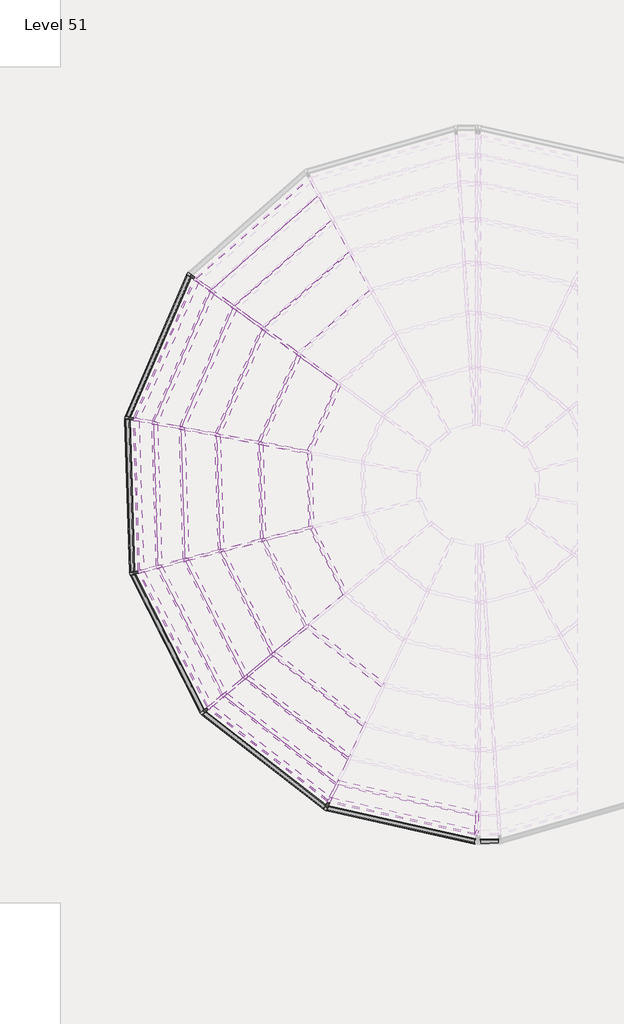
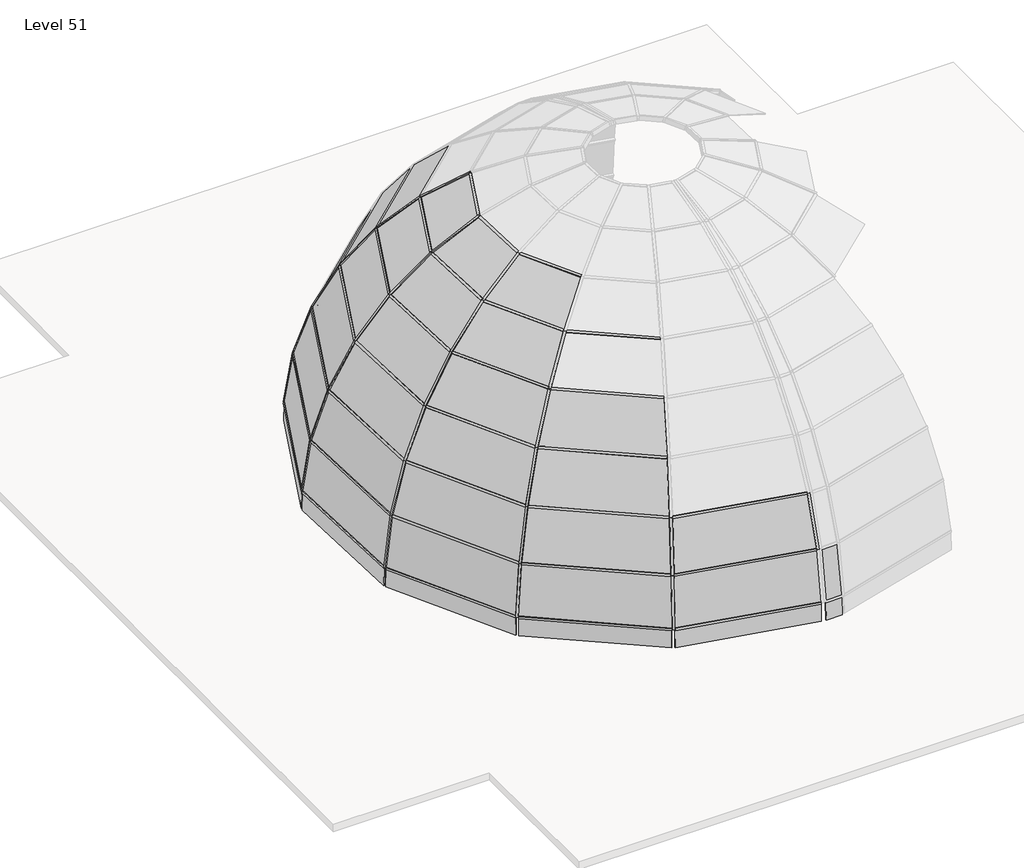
# One storey, part 1 of 5: 56 members, 35 plates.
"""IFC4 building model written with IfcOpenShell, lengths in millimetres."""

from ifc_helpers import new_model, si_unit, origin, place, context, project, spatial, transform, mapped, element, save
from components import member_1612663b, member_5eaec6db, member_d183bd50, member_19265363, member_bab2e2f0, member_1e4e3dac, member_4ad3c4be, member_f539bf5b, member_d9f9b3f1, member_bd7755a3, member_d21742c5, member_01029f2d, member_1ac3cc72, system_panel_glazed_08e752b3, system_panel_glazed_7ce28d7e, system_panel_glazed_bc7ae3a6, system_panel_glazed_73e2dce4, system_panel_glazed_e2cbaf5e, system_panel_glazed_cf9631f2, system_panel_glazed_9d9da8a2, system_panel_glazed_7f2b973a, system_panel_glazed_65ecf698, system_panel_glazed_75a13c62, system_panel_glazed_a149731e, system_panel_glazed_d1d661fa

model = new_model("IFC4")

# Units and contexts
model_context = context("Model", 3, world=origin())
ifc_project = project(units=[si_unit("LENGTHUNIT", "METRE", prefix="MILLI")], contexts=[model_context])

# Site, building, storey
site = spatial("IfcSite", under=ifc_project)
building = spatial("IfcBuilding", under=site)
storey = spatial("IfcBuildingStorey", under=building, Name="Level 51", Elevation=152400.0)

# Members
placement = place(None, origin())
member_shape = member_1612663b(model_context)
element("IfcMember", 1, ObjectType="Rectangular Mullion : 2.5\" x 5\" rectangular", at=placement, inside=storey, context=model_context, shape_type="MappedRepresentation", body=[
    mapped(member_shape, transform((-847.7740807, -9797.4695051, 159578.4455769), x_axis=(-0.6371882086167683, 0.7707082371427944, 0.0), y_axis=(-0.526166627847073, -0.4350117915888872, 0.730693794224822), z_axis=(0.5631517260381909, 0.4655894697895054, 0.6827053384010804))),
])
element("IfcMember", 2, ObjectType="Rectangular Mullion : 2.5\" x 5\" rectangular", at=placement, inside=storey, context=model_context, shape_type="MappedRepresentation", body=[
    mapped(member_shape, transform((-1706.0173112, -10507.027857, 158538.0026411), x_axis=(-0.6371882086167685, 0.7707082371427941, 0.0), y_axis=(-0.6123909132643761, -0.5062982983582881, 0.6071568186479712), z_axis=(0.4679407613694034, 0.386873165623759, 0.7945820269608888))),
])
element("IfcMember", 3, ObjectType="Rectangular Mullion : 2.5\" x 5\" rectangular", at=placement, inside=storey, context=model_context, shape_type="MappedRepresentation", body=[
    mapped(member_shape, transform((-2419.1590315, -11096.6225614, 157327.0596321), x_axis=(-0.6371882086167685, 0.7707082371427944, 0.0), y_axis=(-0.6816043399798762, -0.5635209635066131, 0.4667543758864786), z_axis=(0.35973144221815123, 0.29741038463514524, 0.8843869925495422))),
])
element("IfcMember", 4, ObjectType="Rectangular Mullion : 2.5\" x 5\" rectangular", at=placement, inside=storey, context=model_context, shape_type="MappedRepresentation", body=[
    mapped(member_shape, transform((-2967.3897495, -11549.8759876, 155979.2538554), x_axis=(-0.6371882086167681, 0.7707082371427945, 0.0), y_axis=(-0.7318843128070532, -0.6050902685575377, 0.3133865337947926), z_axis=(0.24152958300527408, 0.19968620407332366, 0.9496256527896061))),
])
element("IfcMember", 5, ObjectType="Rectangular Mullion : 2.5\" x 5\" rectangular", at=placement, inside=storey, context=model_context, shape_type="MappedRepresentation", body=[
    mapped(member_shape, transform((-738.0824991, -7278.9379319, 160419.4872466), x_axis=(-0.24824532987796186, 0.9686971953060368, 0.0), y_axis=(-0.5345897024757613, -0.13699781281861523, 0.83393371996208), z_axis=(0.8078292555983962, 0.20702015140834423, 0.5518646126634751))),
])
element("IfcMember", 6, ObjectType="Rectangular Mullion : 2.5\" x 5\" rectangular", at=placement, inside=storey, context=model_context, shape_type="MappedRepresentation", body=[
    mapped(member_shape, transform((-1969.2142846, -7594.4366426, 159578.4455769), x_axis=(-0.24824532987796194, 0.9686971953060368, 0.0), y_axis=(-0.6613347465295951, -0.1694784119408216, 0.7306937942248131), z_axis=(0.707821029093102, 0.18139132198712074, 0.6827053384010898))),
])
element("IfcMember", 7, ObjectType="Rectangular Mullion : 2.5\" x 5\" rectangular", at=placement, inside=storey, context=model_context, shape_type="MappedRepresentation", body=[
    mapped(member_shape, transform((-3047.933533, -7870.8770173, 158538.0026411), x_axis=(-0.2482453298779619, 0.9686971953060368, 0.0), y_axis=(-0.7697093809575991, -0.19725127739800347, 0.6071568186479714), z_axis=(0.5881511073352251, 0.1507238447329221, 0.7945820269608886))),
])
element("IfcMember", 8, ObjectType="Rectangular Mullion : 2.5\" x 5\" rectangular", at=placement, inside=storey, context=model_context, shape_type="MappedRepresentation", body=[
    mapped(member_shape, transform((-3944.2758205, -8100.5801567, 157327.0596321), x_axis=(-0.24824532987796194, 0.9686971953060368, 0.0), y_axis=(-0.8567031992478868, -0.21954494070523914, 0.46675437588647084), z_axis=(0.452143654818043, 0.11586959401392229, 0.8843869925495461))),
])
element("IfcMember", 9, ObjectType="Rectangular Mullion : 2.5\" x 5\" rectangular", at=placement, inside=storey, context=model_context, shape_type="MappedRepresentation", body=[
    mapped(member_shape, transform((-4633.3427505, -8277.165418, 155979.2538554), x_axis=(-0.24824532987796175, 0.9686971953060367, 0.0), y_axis=(-0.919899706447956, -0.23574013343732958, 0.3133865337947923), z_axis=(0.303576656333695, 0.07779674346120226, 0.9496256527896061))),
])
element("IfcMember", 10, ObjectType="Rectangular Mullion : 2.5\" x 5\" rectangular", at=placement, inside=storey, context=model_context, shape_type="MappedRepresentation", body=[
    mapped(member_shape, transform((-797.2823201, -5362.4848066, 160419.4872466), x_axis=(0.18798237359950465, 0.9821724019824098, 0.0), y_axis=(-0.5420261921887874, 0.10374081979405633, 0.8339337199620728), z_axis=(0.8190666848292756, -0.15676484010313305, 0.5518646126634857))),
])
element("IfcMember", 11, ObjectType="Rectangular Mullion : 2.5\" x 5\" rectangular", at=placement, inside=storey, context=model_context, shape_type="MappedRepresentation", body=[
    mapped(member_shape, transform((-2045.5399477, -5123.5751902, 159578.4455769), x_axis=(0.18798237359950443, 0.9821724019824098, 0.0), y_axis=(-0.6705343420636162, 0.1283365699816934, 0.730693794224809), z_axis=(0.7176672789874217, -0.1373575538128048, 0.6827053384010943))),
])
element("IfcMember", 12, ObjectType="Rectangular Mullion : 2.5\" x 5\" rectangular", at=placement, inside=storey, context=model_context, shape_type="MappedRepresentation", body=[
    mapped(member_shape, transform((-3139.2648809, -4914.2422782, 158538.0026411), x_axis=(0.18798237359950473, 0.9821724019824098, 0.0), y_axis=(-0.780416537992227, 0.1493674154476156, 0.6071568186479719), z_axis=(0.5963326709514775, -0.11413477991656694, 0.7945820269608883))),
])
element("IfcMember", 13, ObjectType="Rectangular Mullion : 2.5\" x 5\" rectangular", at=placement, inside=storey, context=model_context, shape_type="MappedRepresentation", body=[
    mapped(member_shape, transform((-4048.0758714, -4740.3008736, 157327.0596321), x_axis=(0.18798237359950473, 0.9821724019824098, 0.0), y_axis=(-0.8686204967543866, 0.16624916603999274, 0.46675437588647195), z_axis=(0.45843326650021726, -0.0877415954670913, 0.8843869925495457))),
])
element("IfcMember", 14, ObjectType="Rectangular Mullion : 2.5\" x 5\" rectangular", at=placement, inside=storey, context=model_context, shape_type="MappedRepresentation", body=[
    mapped(member_shape, transform((-4746.7281696, -4606.5826821, 155979.2538554), x_axis=(0.18798237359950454, 0.9821724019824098, 0.0), y_axis=(-0.9326961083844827, 0.1785128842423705, 0.3133865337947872), z_axis=(0.30779960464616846, -0.05891114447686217, 0.9496256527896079))),
])
element("IfcMember", 15, ObjectType="Rectangular Mullion : 2.5\" x 5\" rectangular", at=placement, inside=storey, context=model_context, shape_type="MappedRepresentation", body=[
    mapped(member_shape, transform((-66.1935478, -13801.3409492, 155979.2538554), x_axis=(-0.9047619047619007, 0.42591770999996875, 0.0), y_axis=(-0.40446238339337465, -0.859185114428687, 0.3133865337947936), z_axis=(0.13347687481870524, 0.28354019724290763, 0.9496256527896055))),
])
element("IfcMember", 16, ObjectType="Rectangular Mullion : 2.5\" x 5\" rectangular", at=placement, inside=storey, context=model_context, shape_type="MappedRepresentation", body=[
    mapped(member_shape, transform((-34.5927364, -3603.3367743, 160419.4872466), x_axis=(0.5884039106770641, 0.8085671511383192, 0.0), y_axis=(-0.44621959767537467, 0.3247192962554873, 0.8339337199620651), z_axis=(0.6742914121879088, -0.49068986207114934, 0.5518646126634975))),
])
element("IfcMember", 17, ObjectType="Rectangular Mullion : 2.5\" x 5\" rectangular", at=placement, inside=storey, context=model_context, shape_type="MappedRepresentation", body=[
    mapped(member_shape, transform((-1062.2128486, -2855.5254245, 159578.4455769), x_axis=(0.5884039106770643, 0.8085671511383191, 0.0), y_axis=(-0.5520131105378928, 0.4017064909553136, 0.73069379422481), z_axis=(0.5908149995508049, -0.4299430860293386, 0.6827053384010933))),
])
element("IfcMember", 18, ObjectType="Rectangular Mullion : 2.5\" x 5\" rectangular", at=placement, inside=storey, context=model_context, shape_type="MappedRepresentation", body=[
    mapped(member_shape, transform((-1962.6149079, -2200.2921614, 158538.0026411), x_axis=(0.5884039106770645, 0.808567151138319, 0.0), y_axis=(-0.6424729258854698, 0.46753517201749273, 0.607156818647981), z_axis=(0.4909270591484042, -0.3572534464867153, 0.7945820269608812))),
])
element("IfcMember", 19, ObjectType="Rectangular Mullion : 2.5\" x 5\" rectangular", at=placement, inside=storey, context=model_context, shape_type="MappedRepresentation", body=[
    mapped(member_shape, transform((-2710.787746, -1655.837909, 157327.0596321), x_axis=(0.5884039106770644, 0.808567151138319, 0.0), y_axis=(-0.7150862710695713, 0.5203767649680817, 0.4667543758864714), z_axis=(0.3774022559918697, -0.2746401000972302, 0.8843869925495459))),
])
element("IfcMember", 20, ObjectType="Rectangular Mullion : 2.5\" x 5\" rectangular", at=placement, inside=storey, context=model_context, shape_type="MappedRepresentation", body=[
    mapped(member_shape, transform((-3285.9487841, -1237.2863964, 155979.2538554), x_axis=(0.5884039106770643, 0.808567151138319, 0.0), y_axis=(-0.7678361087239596, 0.5587634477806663, 0.31338653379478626), z_axis=(0.2533940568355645, -0.18439786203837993, 0.9496256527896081))),
])
member_2_shape = member_5eaec6db(model_context)
element("IfcMember", 21, ObjectType="Rectangular Mullion : 2.5\" x 5\" rectangular", at=placement, inside=storey, context=model_context, shape_type="MappedRepresentation", body=[
    mapped(member_2_shape, transform((-3335.480834, -11854.1977626, 154532.0243606), x_axis=(-0.6371882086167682, 0.7707082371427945, 0.0), y_axis=(-0.7618341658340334, -0.6298515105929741, 0.15131351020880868), z_axis=(0.11661856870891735, 0.09641518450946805, 0.9884858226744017))),
])
element("IfcMember", 22, ObjectType="Rectangular Mullion : 2.5\" x 5\" rectangular", at=placement, inside=storey, context=model_context, shape_type="MappedRepresentation", body=[
    mapped(member_2_shape, transform((-5095.9935747, -8395.727655, 154532.0243606), x_axis=(-0.24824532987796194, 0.9686971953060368, 0.0), y_axis=(-0.9575434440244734, -0.2453869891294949, 0.15131351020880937), z_axis=(0.14657697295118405, 0.037562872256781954, 0.9884858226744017))),
])
element("IfcMember", 23, ObjectType="Rectangular Mullion : 2.5\" x 5\" rectangular", at=placement, inside=storey, context=model_context, shape_type="MappedRepresentation", body=[
    mapped(member_2_shape, transform((-269.612305, -14233.4562098, 154532.0243606), x_axis=(-0.9047619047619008, 0.42591770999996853, 0.0), y_axis=(-0.4210136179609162, -0.8943443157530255, 0.1513135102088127), z_axis=(0.0644471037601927, 0.13690269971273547, 0.9884858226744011))),
])
element("IfcMember", 24, ObjectType="Rectangular Mullion : 2.5\" x 5\" rectangular", at=placement, inside=storey, context=model_context, shape_type="MappedRepresentation", body=[
    mapped(member_2_shape, transform((-5215.8147671, -4516.802098, 154532.0243606), x_axis=(0.18798237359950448, 0.9821724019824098, 0.0), y_axis=(-0.9708634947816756, 0.18581791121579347, 0.15131351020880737), z_axis=(0.14861595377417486, -0.02844427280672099, 0.9884858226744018))),
])
element("IfcMember", 25, ObjectType="Rectangular Mullion : 2.5\" x 5\" rectangular", at=placement, inside=storey, context=model_context, shape_type="MappedRepresentation", body=[
    mapped(member_2_shape, transform((-3672.1213268, -956.2640547, 154532.0243606), x_axis=(0.5884039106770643, 0.8085671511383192, 0.0), y_axis=(-0.7992571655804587, 0.5816289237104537, 0.15131351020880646), z_axis=(0.1223471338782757, -0.08903346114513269, 0.988485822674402))),
])
member_3_shape = member_d183bd50(model_context)
element("IfcMember", 26, ObjectType="Rectangular Mullion : 2.5\" x 5\" rectangular", at=placement, inside=storey, context=model_context, shape_type="MappedRepresentation", body=[
    mapped(member_3_shape, transform((-5304.9735037, -8481.2684402, 153025.5719668), x_axis=(-0.062466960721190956, -0.03179841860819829, -0.9975403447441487), y_axis=(-0.888988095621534, -0.452533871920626, 0.07009465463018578), z_axis=(-0.4536496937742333, 0.8911800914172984, 0.0))),
])
element("IfcMember", 27, ObjectType="Rectangular Mullion : 2.5\" x 5\" rectangular", at=placement, inside=storey, context=model_context, shape_type="MappedRepresentation", body=[
    mapped(member_3_shape, transform((-5441.325181, -4505.1878889, 153025.5719668), x_axis=(-0.07006123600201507, -0.0021642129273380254, -0.9975403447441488), y_axis=(-0.9970647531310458, -0.030799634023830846, 0.07009465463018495), z_axis=(-0.030875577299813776, 0.999523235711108, 0.0))),
])
element("IfcMember", 28, ObjectType="Rectangular Mullion : 2.5\" x 5\" rectangular", at=placement, inside=storey, context=model_context, shape_type="MappedRepresentation", body=[
    mapped(member_3_shape, transform((-3871.2078611, -849.7070817, 153025.5719668), x_axis=(-0.06431051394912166, 0.02788222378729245, -0.9975403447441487), y_axis=(-0.915224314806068, 0.39680120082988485, 0.07009465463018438), z_axis=(0.39777960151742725, 0.9174810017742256, 0.0))),
])
element("IfcMember", 29, ObjectType="Rectangular Mullion : 2.5\" x 5\" rectangular", at=placement, inside=storey, context=model_context, shape_type="MappedRepresentation", body=[
    mapped(member_3_shape, transform((-3488.1245773, -12020.6000592, 153025.5719668), x_axis=(-0.04297421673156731, -0.05537578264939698, -0.9975403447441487), y_axis=(-0.6115803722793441, -0.7880711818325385, 0.07009465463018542), z_axis=(-0.7900143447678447, 0.6130883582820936, 0.0))),
])
member_4_shape = member_19265363(model_context)
element("IfcMember", 30, ObjectType="Rectangular Mullion : 2.5\" x 5\" rectangular", at=placement, inside=storey, context=model_context, shape_type="MappedRepresentation", body=[
    mapped(member_4_shape, transform((-238.6274777, -14240.3846278, 154532.0243606), x_axis=(-0.05206567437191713, -0.23284477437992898, -0.9711191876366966), y_axis=(-0.21191558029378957, -0.9477152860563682, 0.23859489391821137), z_axis=(-0.9759000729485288, 0.21821789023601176, 0.0))),
])
member_5_shape = member_bab2e2f0(model_context)
element("IfcMember", 31, ObjectType="Rectangular Mullion : 2.5\" x 5\" rectangular", at=placement, inside=storey, context=model_context, shape_type="MappedRepresentation", body=[
    mapped(member_5_shape, transform((-3310.3978785, -11873.663318, 154532.0243606), x_axis=(-0.146279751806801, -0.18849338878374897, -0.9711191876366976), y_axis=(-0.5953818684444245, -0.7671980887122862, 0.23859489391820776), z_axis=(-0.7900143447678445, 0.6130883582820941, 0.0))),
])
element("IfcMember", 32, ObjectType="Rectangular Mullion : 2.5\" x 5\" rectangular", at=placement, inside=storey, context=model_context, shape_type="MappedRepresentation", body=[
    mapped(member_5_shape, transform((-5081.590197, -8424.0226229, 154532.0243606), x_axis=(-0.21263101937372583, -0.10823850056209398, -0.9711191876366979), y_axis=(-0.8654420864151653, -0.4405479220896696, 0.23859489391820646), z_axis=(-0.45364969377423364, 0.8911800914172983, 0.0))),
])
element("IfcMember", 33, ObjectType="Rectangular Mullion : 2.5\" x 5\" rectangular", at=placement, inside=storey, context=model_context, shape_type="MappedRepresentation", body=[
    mapped(member_5_shape, transform((-5214.8344675, -4548.5369607, 154532.0243606), x_axis=(-0.2384811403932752, -0.007366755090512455, -0.9711191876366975), y_axis=(-0.9706561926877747, -0.029983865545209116, 0.23859489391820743), z_axis=(-0.03087557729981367, 0.999523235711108, 0.0))),
])
element("IfcMember", 34, ObjectType="Rectangular Mullion : 2.5\" x 5\" rectangular", at=placement, inside=storey, context=model_context, shape_type="MappedRepresentation", body=[
    mapped(member_5_shape, transform((-3684.7508291, -985.3940765, 154532.0243606), x_axis=(-0.21890628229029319, 0.0949081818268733, -0.9711191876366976), y_axis=(-0.890983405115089, 0.3862914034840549, 0.23859489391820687), z_axis=(0.3977796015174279, 0.9174810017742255, 0.0))),
])
member_6_shape = member_1e4e3dac(model_context)
element("IfcMember", 35, ObjectType="Rectangular Mullion : 2.5\" x 5\" rectangular", at=placement, inside=storey, context=model_context, shape_type="MappedRepresentation", body=[
    mapped(member_6_shape, transform((-336.8448638, -14449.0243421, 153025.5719668), x_axis=(-0.015295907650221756, -0.06840537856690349, -0.9975403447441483), y_axis=(-0.2176811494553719, -0.9734996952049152, 0.07009465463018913), z_axis=(-0.9759000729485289, 0.2182178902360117, 0.0))),
])
member_7_shape = member_4ad3c4be(model_context)
element("IfcMember", 36, ObjectType="Rectangular Mullion : 2.5\" x 5\" rectangular", at=placement, inside=storey, context=model_context, shape_type="MappedRepresentation", body=[
    mapped(member_7_shape, transform((-2723.4172484, -1684.9679308, 157327.0596321), x_axis=(-0.5029371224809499, 0.21805152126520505, -0.8363658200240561), y_axis=(-0.7673497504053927, 0.33268926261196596, 0.5481717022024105), z_axis=(0.39777960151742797, 0.9174810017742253, 0.0))),
])
element("IfcMember", 37, ObjectType="Rectangular Mullion : 2.5\" x 5\" rectangular", at=placement, inside=storey, context=model_context, shape_type="MappedRepresentation", body=[
    mapped(member_7_shape, transform((-4047.0955719, -4772.0357364, 157327.0596321), x_axis=(-0.547910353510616, -0.016925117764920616, -0.8363658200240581), y_axis=(-0.835967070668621, -0.025823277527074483, 0.5481717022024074), z_axis=(-0.030875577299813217, 0.999523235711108, 0.0))),
])
element("IfcMember", 38, ObjectType="Rectangular Mullion : 2.5\" x 5\" rectangular", at=placement, inside=storey, context=model_context, shape_type="MappedRepresentation", body=[
    mapped(member_7_shape, transform((-2394.0760761, -11116.0881168, 157327.0596321), x_axis=(-0.33607768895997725, -0.4330635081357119, -0.8363658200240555), y_axis=(-0.5127661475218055, -0.6607409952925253, 0.5481717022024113), z_axis=(-0.7900143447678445, 0.613088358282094, 0.0))),
])
element("IfcMember", 39, ObjectType="Rectangular Mullion : 2.5\" x 5\" rectangular", at=placement, inside=storey, context=model_context, shape_type="MappedRepresentation", body=[
    mapped(member_7_shape, transform((-3929.8724428, -8128.8751246, 157327.0596321), x_axis=(-0.4885197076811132, -0.2486779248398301, -0.8363658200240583), y_axis=(-0.7453525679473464, -0.37941709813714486, 0.5481717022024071), z_axis=(-0.4536496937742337, 0.8911800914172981, 0.0))),
])
member_8_shape = member_f539bf5b(model_context)
element("IfcMember", 40, ObjectType="Rectangular Mullion : 2.5\" x 5\" rectangular", at=placement, inside=storey, context=model_context, shape_type="MappedRepresentation", body=[
    mapped(member_8_shape, transform((-35.2087204, -13808.2693672, 155979.2538554), x_axis=(-0.08719349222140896, -0.38994115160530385, -0.9167023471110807), y_axis=(-0.20004085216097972, -0.8946098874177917, 0.39957077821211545), z_axis=(-0.9759000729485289, 0.2182178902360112, 0.0))),
])
member_9_shape = member_d9f9b3f1(model_context)
element("IfcMember", 41, ObjectType="Rectangular Mullion : 2.5\" x 5\" rectangular", at=placement, inside=storey, context=model_context, shape_type="MappedRepresentation", body=[
    mapped(member_9_shape, transform((-2942.306794, -11569.341543, 155979.2538554), x_axis=(-0.2449721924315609, -0.31566664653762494, -0.9167023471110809), y_axis=(-0.5620195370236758, -0.724208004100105, 0.3995707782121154), z_axis=(-0.790014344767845, 0.6130883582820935, 0.0))),
])
element("IfcMember", 42, ObjectType="Rectangular Mullion : 2.5\" x 5\" rectangular", at=placement, inside=storey, context=model_context, shape_type="MappedRepresentation", body=[
    mapped(member_9_shape, transform((-4618.9393727, -8305.4603859, 155979.2538554), x_axis=(-0.3560895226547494, -0.18126516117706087, -0.9167023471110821), y_axis=(-0.8169468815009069, -0.415861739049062, 0.39957077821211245), z_axis=(-0.45364969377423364, 0.8911800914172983, 0.0))),
])
element("IfcMember", 43, ObjectType="Rectangular Mullion : 2.5\" x 5\" rectangular", at=placement, inside=storey, context=model_context, shape_type="MappedRepresentation", body=[
    mapped(member_9_shape, transform((-4745.74787, -4638.3175449, 155979.2538554), x_axis=(-0.3993802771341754, -0.012336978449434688, -0.9167023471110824), y_axis=(-0.9162652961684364, -0.028303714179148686, 0.3995707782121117), z_axis=(-0.03087557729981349, 0.999523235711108, 0.0))),
])
element("IfcMember", 44, ObjectType="Rectangular Mullion : 2.5\" x 5\" rectangular", at=placement, inside=storey, context=model_context, shape_type="MappedRepresentation", body=[
    mapped(member_9_shape, transform((-3298.5782865, -1266.4164182, 155979.2538554), x_axis=(-0.36659859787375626, 0.1589411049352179, -0.9167023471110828), y_axis=(-0.8410569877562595, 0.3646454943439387, 0.39957077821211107), z_axis=(0.3977796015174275, 0.9174810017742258, 0.0))),
])
member_10_shape = member_bd7755a3(model_context)
element("IfcMember", 45, ObjectType="Rectangular Mullion : 2.5\" x 5\" rectangular", at=placement, inside=storey, context=model_context, shape_type="MappedRepresentation", body=[
    mapped(member_10_shape, transform((-1074.8423509, -2884.6554463, 159578.4455769), x_axis=(-0.7269350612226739, 0.3151672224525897, -0.6101106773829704), y_axis=(-0.559764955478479, 0.2426895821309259, 0.7923162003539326), z_axis=(0.39777960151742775, 0.9174810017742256, 0.0))),
])
element("IfcMember", 46, ObjectType="Rectangular Mullion : 2.5\" x 5\" rectangular", at=placement, inside=storey, context=model_context, shape_type="MappedRepresentation", body=[
    mapped(member_10_shape, transform((-2044.5596482, -5155.310053, 159578.4455769), x_axis=(-0.7919384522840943, -0.024463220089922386, -0.6101106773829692), y_axis=(-0.6098197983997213, -0.018837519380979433, 0.7923162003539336), z_axis=(-0.030875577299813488, 0.999523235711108, 0.0))),
])
element("IfcMember", 47, ObjectType="Rectangular Mullion : 2.5\" x 5\" rectangular", at=placement, inside=storey, context=model_context, shape_type="MappedRepresentation", body=[
    mapped(member_10_shape, transform((-1954.8109068, -7622.7316105, 159578.4455769), x_axis=(-0.7060964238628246, -0.35943400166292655, -0.6101106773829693), y_axis=(-0.5437184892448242, -0.27677652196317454, 0.7923162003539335), z_axis=(-0.4536496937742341, 0.8911800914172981, 0.0))),
])
element("IfcMember", 48, ObjectType="Rectangular Mullion : 2.5\" x 5\" rectangular", at=placement, inside=storey, context=model_context, shape_type="MappedRepresentation", body=[
    mapped(member_10_shape, transform((-822.6911253, -9816.9350604, 159578.4455769), x_axis=(-0.4857598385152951, -0.6259411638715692, -0.6101106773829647), y_axis=(-0.37405175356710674, -0.48199618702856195, 0.7923162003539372), z_axis=(-0.7900143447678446, 0.6130883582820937, 0.0))),
])
member_11_shape = member_d21742c5(model_context)
element("IfcMember", 49, ObjectType="Rectangular Mullion : 2.5\" x 5\" rectangular", at=placement, inside=storey, context=model_context, shape_type="MappedRepresentation", body=[
    mapped(member_11_shape, transform((-47.2222387, -3632.4667961, 160419.4872466), x_axis=(-0.8091100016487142, 0.3507946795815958, -0.47147014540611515), y_axis=(-0.43256490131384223, 0.1875412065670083, 0.8818820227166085), z_axis=(0.3977796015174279, 0.9174810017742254, 0.0))),
])
element("IfcMember", 50, ObjectType="Rectangular Mullion : 2.5\" x 5\" rectangular", at=placement, inside=storey, context=model_context, shape_type="MappedRepresentation", body=[
    mapped(member_11_shape, transform((-796.3020205, -5394.2196693, 160419.4872466), x_axis=(-0.8814615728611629, -0.02722861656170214, -0.47147014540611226), y_axis=(-0.471245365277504, -0.014556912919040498, 0.8818820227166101), z_axis=(-0.03087557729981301, 0.9995232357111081, 0.0))),
])
element("IfcMember", 51, ObjectType="Rectangular Mullion : 2.5\" x 5\" rectangular", at=placement, inside=storey, context=model_context, shape_type="MappedRepresentation", body=[
    mapped(member_11_shape, transform((-723.6791213, -7307.2328998, 160419.4872466), x_axis=(-0.7859157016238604, -0.4000655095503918, -0.4714701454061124), y_axis=(-0.4201648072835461, -0.21388228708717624, 0.88188202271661), z_axis=(-0.45364969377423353, 0.8911800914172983, 0.0))),
])
member_12_shape = member_01029f2d(model_context)
element("IfcMember", 52, ObjectType="Rectangular Mullion : 2.5\" x 5\" rectangular", at=placement, inside=storey, context=model_context, shape_type="MappedRepresentation", body=[
    mapped(member_12_shape, transform((-1975.2444102, -2229.4221832, 158538.0026411), x_axis=(-0.6240863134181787, 0.2705765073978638, -0.7330106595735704), y_axis=(-0.6725233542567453, 0.2915766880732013, 0.6802171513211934), z_axis=(0.39777960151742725, 0.9174810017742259, 0.0))),
])
element("IfcMember", 53, ObjectType="Rectangular Mullion : 2.5\" x 5\" rectangular", at=placement, inside=storey, context=model_context, shape_type="MappedRepresentation", body=[
    mapped(member_12_shape, transform((-1680.9343558, -10526.4934124, 158538.0026411), x_axis=(-0.4170332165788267, -0.5373813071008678, -0.7330106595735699), y_axis=(-0.4494003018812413, -0.5790889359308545, 0.6802171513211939), z_axis=(-0.7900143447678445, 0.6130883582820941, 0.0))),
])
element("IfcMember", 54, ObjectType="Rectangular Mullion : 2.5\" x 5\" rectangular", at=placement, inside=storey, context=model_context, shape_type="MappedRepresentation", body=[
    mapped(member_12_shape, transform((-3033.5301552, -7899.1719852, 158538.0026411), x_axis=(-0.6061959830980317, -0.30858030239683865, -0.7330106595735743), y_axis=(-0.6532445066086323, -0.33253006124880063, 0.6802171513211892), z_axis=(-0.4536496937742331, 0.8911800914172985, 0.0))),
])
element("IfcMember", 55, ObjectType="Rectangular Mullion : 2.5\" x 5\" rectangular", at=placement, inside=storey, context=model_context, shape_type="MappedRepresentation", body=[
    mapped(member_12_shape, transform((-3138.2845813, -4945.977141, 158538.0026411), x_axis=(-0.6798928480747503, -0.021002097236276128, -0.7330106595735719), y_axis=(-0.73266118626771, -0.022632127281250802, 0.680217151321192), z_axis=(-0.030875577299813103, 0.9995232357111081, 0.0))),
])
member_13_shape = member_1ac3cc72(model_context)
element("IfcMember", 56, ObjectType="Rectangular Mullion : 2.5\" x 5\" rectangular", at=placement, inside=storey, context=model_context, shape_type="MappedRepresentation", body=[
    mapped(member_13_shape, transform((3517.6370544, -15080.3109113, 154532.0243606), x_axis=(0.9781901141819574, -0.19724824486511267, 0.06509401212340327), y_axis=(-0.20771158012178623, -0.928914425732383, 0.3065516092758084), z_axis=(0.0, -0.31338653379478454, -0.9496256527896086))),
])

# Plates
system_panel_glazed_shape = system_panel_glazed_08e752b3(model_context)
element("IfcPlate", 57, ObjectType="System Panel : Glazed", at=placement, inside=storey, context=model_context, shape_type="MappedRepresentation", body=[
    mapped(system_panel_glazed_shape, transform((-326.5944607, -8145.218736, 160401.668006), x_axis=(-0.45364969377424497, 0.8911800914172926, 0.0), y_axis=(0.5001622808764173, 0.25460450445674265, -0.8276558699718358), z_axis=(-0.7375904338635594, -0.37546583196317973, -0.5612359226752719))),
])
element("IfcPlate", 58, ObjectType="System Panel : Glazed", at=placement, inside=storey, context=model_context, shape_type="MappedRepresentation", body=[
    mapped(system_panel_glazed_shape, transform((-793.947955, -6321.5227199, 160401.668006), x_axis=(-0.03087557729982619, 0.9995232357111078, 0.0), y_axis=(0.5609683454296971, 0.017328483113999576, -0.8276558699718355), z_axis=(-0.8272612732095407, -0.025554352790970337, -0.5612359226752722))),
])
element("IfcPlate", 59, ObjectType="System Panel : Glazed", at=placement, inside=storey, context=model_context, shape_type="MappedRepresentation", body=[
    mapped(system_panel_glazed_shape, transform((-440.0471618, -4472.4579087, 160401.668006), x_axis=(0.397779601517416, 0.9174810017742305, 0.0), y_axis=(0.5149232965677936, -0.22324820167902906, -0.8276558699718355), z_axis=(-0.7593585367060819, 0.32922462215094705, -0.5612359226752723))),
])
system_panel_glazed_2_shape = system_panel_glazed_7ce28d7e(model_context)
element("IfcPlate", 60, ObjectType="System Panel : Glazed", at=placement, inside=storey, context=model_context, shape_type="MappedRepresentation", body=[
    mapped(system_panel_glazed_2_shape, transform((-1428.9323626, -8706.3570025, 159556.4887654), x_axis=(-0.4536496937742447, 0.8911800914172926, 0.0), y_axis=(0.616298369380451, 0.31372285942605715, -0.7223256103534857), z_axis=(-0.6437222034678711, -0.3276827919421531, -0.6915531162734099))),
])
element("IfcPlate", 61, ObjectType="System Panel : Glazed", at=placement, inside=storey, context=model_context, shape_type="MappedRepresentation", body=[
    mapped(system_panel_glazed_2_shape, transform((-2030.3000203, -6359.7140119, 159556.4887654), x_axis=(-0.03087557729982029, 0.9995232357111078, 0.0), y_axis=(0.6912234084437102, 0.02135210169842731, -0.7223256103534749), z_axis=(-0.7219812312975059, -0.02230222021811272, -0.6915531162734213))),
])
element("IfcPlate", 62, ObjectType="System Panel : Glazed", at=placement, inside=storey, context=model_context, shape_type="MappedRepresentation", body=[
    mapped(system_panel_glazed_2_shape, transform((-1574.9177589, -3980.4276944, 159556.4887654), x_axis=(0.39777960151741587, 0.9174810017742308, 0.0), y_axis=(0.6344868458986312, -0.27508572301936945, -0.7223256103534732), z_axis=(-0.6627200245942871, 0.28732639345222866, -0.6915531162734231))),
])
element("IfcPlate", 63, ObjectType="System Panel : Glazed", at=placement, inside=storey, context=model_context, shape_type="MappedRepresentation", body=[
    mapped(system_panel_glazed_2_shape, transform((-149.525057, -2021.6954437, 159556.4887654), x_axis=(0.7506672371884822, 0.6606804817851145, 0.0), y_axis=(0.4568956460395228, -0.5191262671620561, -0.7223256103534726), z_axis=(-0.4772264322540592, 0.5422261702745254, -0.6915531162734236))),
])
system_panel_glazed_3_shape = system_panel_glazed_bc7ae3a6(model_context)
element("IfcPlate", 64, ObjectType="System Panel : Glazed", at=placement, inside=storey, context=model_context, shape_type="MappedRepresentation", body=[
    mapped(system_panel_glazed_3_shape, transform((-549.204711, -11428.7937961, 158512.550274), x_axis=(-0.7900143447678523, 0.613088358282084, 0.0), y_axis=(0.4914818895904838, 0.6333144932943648, -0.5977945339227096), z_axis=(-0.3665008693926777, -0.47226625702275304, -0.8016493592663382))),
])
element("IfcPlate", 65, ObjectType="System Panel : Glazed", at=placement, inside=storey, context=model_context, shape_type="MappedRepresentation", body=[
    mapped(system_panel_glazed_3_shape, transform((-2393.8899992, -9197.5626977, 158512.550274), x_axis=(-0.4536496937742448, 0.8911800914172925, 0.0), y_axis=(0.7144139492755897, 0.3636679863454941, -0.597794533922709), z_axis=(-0.5327425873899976, -0.2711893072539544, -0.8016493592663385))),
])
element("IfcPlate", 66, ObjectType="System Panel : Glazed", at=placement, inside=storey, context=model_context, shape_type="MappedRepresentation", body=[
    mapped(system_panel_glazed_3_shape, transform((-3112.5701344, -6393.1456655, 158512.550274), x_axis=(-0.030875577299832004, 0.9995232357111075, 0.0), y_axis=(0.8012671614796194, 0.024751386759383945, -0.5977945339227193), z_axis=(-0.5975095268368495, -0.01845725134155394, -0.8016493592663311))),
])
element("IfcPlate", 67, ObjectType="System Panel : Glazed", at=placement, inside=storey, context=model_context, shape_type="MappedRepresentation", body=[
    mapped(system_panel_glazed_3_shape, transform((-2568.3536622, -3549.7173723, 158512.550274), x_axis=(0.3977796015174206, 0.9174810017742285, 0.0), y_axis=(0.7354980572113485, -0.3188797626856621, -0.5977945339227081), z_axis=(-0.5484651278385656, 0.23779047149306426, -0.8016493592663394))),
])
element("IfcPlate", 68, ObjectType="System Panel : Glazed", at=placement, inside=storey, context=model_context, shape_type="MappedRepresentation", body=[
    mapped(system_panel_glazed_3_shape, transform((-864.900863, -1208.8832073, 158512.550274), x_axis=(0.7506672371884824, 0.6606804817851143, 0.0), y_axis=(0.5296340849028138, -0.6017719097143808, -0.5977945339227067), z_axis=(-0.39495118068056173, 0.44874477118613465, -0.8016493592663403))),
])
system_panel_glazed_4_shape = system_panel_glazed_73e2dce4(model_context)
element("IfcPlate", 69, ObjectType="System Panel : Glazed", at=placement, inside=storey, context=model_context, shape_type="MappedRepresentation", body=[
    mapped(system_panel_glazed_4_shape, transform((-1100.1045097, -12138.6731105, 157298.8335509), x_axis=(-0.7900143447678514, 0.6130883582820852, 0.0), y_axis=(0.5450419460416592, 0.7023309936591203, -0.45788694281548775), z_axis=(-0.2807251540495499, -0.3617372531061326, -0.8890104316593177))),
])
element("IfcPlate", 70, ObjectType="System Panel : Glazed", at=placement, inside=storey, context=model_context, shape_type="MappedRepresentation", body=[
    mapped(system_panel_glazed_4_shape, transform((-3194.6733224, -9605.1964777, 157298.8335509), x_axis=(-0.4536496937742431, 0.8911800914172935, 0.0), y_axis=(0.7922683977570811, 0.4032993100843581, -0.4578869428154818), z_axis=(-0.40805972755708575, -0.20772027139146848, -0.8890104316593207))),
])
element("IfcPlate", 71, ObjectType="System Panel : Glazed", at=placement, inside=storey, context=model_context, shape_type="MappedRepresentation", body=[
    mapped(system_panel_glazed_4_shape, transform((-4010.7068253, -6420.8893816, 157298.8335509), x_axis=(-0.0308755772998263, 0.9995232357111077, 0.0), y_axis=(0.8885865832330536, 0.02744871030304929, -0.45788694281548), z_axis=(-0.4576686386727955, -0.014137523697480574, -0.8890104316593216))),
])
element("IfcPlate", 72, ObjectType="System Panel : Glazed", at=placement, inside=storey, context=model_context, shape_type="MappedRepresentation", body=[
    mapped(system_panel_glazed_4_shape, transform((-3392.7700654, -3192.2865071, 157298.8335509), x_axis=(0.39777960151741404, 0.9174810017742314, 0.0), y_axis=(0.8156501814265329, -0.3536302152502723, -0.4578869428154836), z_axis=(-0.4201025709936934, 0.18213808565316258, -0.8890104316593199))),
])
element("IfcPlate", 73, ObjectType="System Panel : Glazed", at=placement, inside=storey, context=model_context, shape_type="MappedRepresentation", body=[
    mapped(system_panel_glazed_4_shape, transform((-1458.5652826, -534.3598303, 157298.8335509), x_axis=(0.7506672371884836, 0.660680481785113, 0.0), y_axis=(0.5873518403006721, -0.6673510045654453, -0.45788694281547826), z_axis=(-0.3025169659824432, 0.3437207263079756, -0.8890104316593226))),
])
system_panel_glazed_5_shape = system_panel_glazed_e2cbaf5e(model_context)
element("IfcPlate", 74, ObjectType="System Panel : Glazed", at=placement, inside=storey, context=model_context, shape_type="MappedRepresentation", body=[
    mapped(system_panel_glazed_5_shape, transform((1708.0690675, -14208.0515021, 155949.0324897), x_axis=(-0.9759000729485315, 0.21821789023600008, 0.0), y_axis=(0.20771158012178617, 0.928914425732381, -0.30655160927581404), z_axis=(-0.06689504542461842, -0.29916373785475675, -0.9518540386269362))),
])
system_panel_glazed_6_shape = system_panel_glazed_cf9631f2(model_context)
element("IfcPlate", 75, ObjectType="System Panel : Glazed", at=placement, inside=storey, context=model_context, shape_type="MappedRepresentation", body=[
    mapped(system_panel_glazed_6_shape, transform((-1522.758846, -12683.2976887, 155949.0324897), x_axis=(-0.7900143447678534, 0.6130883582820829, 0.0), y_axis=(0.583570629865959, 0.7519783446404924, -0.3065516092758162), z_axis=(-0.1879432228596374, -0.24218016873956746, -0.9518540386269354))),
])
element("IfcPlate", 76, ObjectType="System Panel : Glazed", at=placement, inside=storey, context=model_context, shape_type="MappedRepresentation", body=[
    mapped(system_panel_glazed_6_shape, transform((-3809.0401179, -9917.9360814, 155949.0324897), x_axis=(-0.45364969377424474, 0.8911800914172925, 0.0), y_axis=(0.8482733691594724, 0.43180829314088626, -0.3065516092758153), z_axis=(-0.2731926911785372, -0.13906704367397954, -0.9518540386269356))),
])
element("IfcPlate", 77, ObjectType="System Panel : Glazed", at=placement, inside=storey, context=model_context, shape_type="MappedRepresentation", body=[
    mapped(system_panel_glazed_6_shape, transform((-4699.7638333, -6442.1745625, 155949.0324897), x_axis=(-0.030875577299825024, 0.9995232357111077, 0.0), y_axis=(0.9514002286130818, 0.029389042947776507, -0.30655160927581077), z_axis=(-0.3064054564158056, -0.009464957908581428, -0.9518540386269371))),
])
element("IfcPlate", 78, ObjectType="System Panel : Glazed", at=placement, inside=storey, context=model_context, shape_type="MappedRepresentation", body=[
    mapped(system_panel_glazed_6_shape, transform((-4025.2683319, -2918.062945, 155949.0324897), x_axis=(0.39777960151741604, 0.9174810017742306, 0.0), y_axis=(0.8733079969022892, -0.37862812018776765, -0.3065516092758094), z_axis=(-0.281255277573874, 0.12193997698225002, -0.9518540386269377))),
])
element("IfcPlate", 79, ObjectType="System Panel : Glazed", at=placement, inside=storey, context=model_context, shape_type="MappedRepresentation", body=[
    mapped(system_panel_glazed_6_shape, transform((-1914.0289475, -16.8605847, 155949.0324897), x_axis=(0.7506672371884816, 0.6606804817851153, 0.0), y_axis=(0.6288713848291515, -0.714525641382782, -0.30655160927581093), z_axis=(-0.2025326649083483, 0.23011824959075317, -0.9518540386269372))),
])
system_panel_glazed_7_shape = system_panel_glazed_9d9da8a2(model_context)
element("IfcPlate", 80, ObjectType="System Panel : Glazed", at=placement, inside=storey, context=model_context, shape_type="MappedRepresentation", body=[
    mapped(system_panel_glazed_7_shape, transform((1607.4878527, -14657.9953901, 154500.6228129), x_axis=(-0.9759000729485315, 0.21821789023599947, 0.0), y_axis=(0.21582297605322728, 0.9651896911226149, -0.1477474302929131), z_axis=(-0.03224113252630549, -0.144186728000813, -0.9890251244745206))),
])
system_panel_glazed_8_shape = system_panel_glazed_7f2b973a(model_context)
element("IfcPlate", 81, ObjectType="System Panel : Glazed", at=placement, inside=storey, context=model_context, shape_type="MappedRepresentation", body=[
    mapped(system_panel_glazed_8_shape, transform((-1805.4225553, -13047.5329284, 154500.6228129), x_axis=(-0.7900143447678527, 0.6130883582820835, 0.0), y_axis=(0.6063597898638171, 0.7813440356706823, -0.14774743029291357), z_axis=(-0.09058222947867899, -0.11672258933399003, -0.9890251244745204))),
])
element("IfcPlate", 82, ObjectType="System Panel : Glazed", at=placement, inside=storey, context=model_context, shape_type="MappedRepresentation", body=[
    mapped(system_panel_glazed_8_shape, transform((-4219.9177132, -10127.0907709, 154500.6228129), x_axis=(-0.4536496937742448, 0.8911800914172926, 0.0), y_axis=(0.8813995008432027, 0.4486709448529, -0.1477474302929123), z_axis=(-0.13166956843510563, -0.06702557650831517, -0.9890251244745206))),
])
element("IfcPlate", 83, ObjectType="System Panel : Glazed", at=placement, inside=storey, context=model_context, shape_type="MappedRepresentation", body=[
    mapped(system_panel_glazed_8_shape, transform((-5160.5929153, -6456.4097132, 154500.6228129), x_axis=(-0.030875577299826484, 0.9995232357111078, 0.0), y_axis=(0.988553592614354, 0.030536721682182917, -0.147747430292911), z_axis=(-0.1476769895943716, -0.004561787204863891, -0.989025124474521))),
])
element("IfcPlate", 84, ObjectType="System Panel : Glazed", at=placement, inside=storey, context=model_context, shape_type="MappedRepresentation", body=[
    mapped(system_panel_glazed_8_shape, transform((-4448.2719328, -2734.6670998, 154500.6228129), x_axis=(0.3977796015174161, 0.9174810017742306, 0.0), y_axis=(0.9074117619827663, -0.39341401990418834, -0.14774743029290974), z_axis=(-0.13555546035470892, 0.05877091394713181, -0.9890251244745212))),
])
system_panel_glazed_9_shape = system_panel_glazed_65ecf698(model_context)
element("IfcPlate", 85, ObjectType="System Panel : Glazed", at=placement, inside=storey, context=model_context, shape_type="MappedRepresentation", body=[
    mapped(system_panel_glazed_9_shape, transform((3808.0668711, -15076.1437021, 154500.6395932), x_axis=(-0.9995232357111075, -0.0308755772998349, 0.0), y_axis=(-0.0305204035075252, 0.988025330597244, -0.15124301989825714), z_axis=(0.004669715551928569, -0.1511709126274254, -0.9884966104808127))),
])
system_panel_glazed_10_shape = system_panel_glazed_75a13c62(model_context)
element("IfcPlate", 86, ObjectType="System Panel : Glazed", at=placement, inside=storey, context=model_context, shape_type="MappedRepresentation", body=[
    mapped(system_panel_glazed_10_shape, transform((1559.1794072, -14874.0749873, 152993.8396842), x_axis=(-0.9759000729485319, 0.2182178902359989, 0.0), y_axis=(0.2180961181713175, 0.975355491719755, -0.033402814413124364), z_axis=(-0.007289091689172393, -0.03259780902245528, -0.9994419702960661))),
])
system_panel_glazed_11_shape = system_panel_glazed_a149731e(model_context)
element("IfcPlate", 87, ObjectType="System Panel : Glazed", at=placement, inside=storey, context=model_context, shape_type="MappedRepresentation", body=[
    mapped(system_panel_glazed_11_shape, transform((-1941.1688162, -13222.4530553, 152993.8396842), x_axis=(-0.7900143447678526, 0.6130883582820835, 0.0), y_axis=(0.6127462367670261, 0.7895734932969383, -0.033402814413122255), z_axis=(-0.020478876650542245, -0.026388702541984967, -0.9994419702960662))),
])
element("IfcPlate", 88, ObjectType="System Panel : Glazed", at=placement, inside=storey, context=model_context, shape_type="MappedRepresentation", body=[
    mapped(system_panel_glazed_11_shape, transform((-4417.2373387, -10227.5351014, 152993.8396842), x_axis=(-0.4536496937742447, 0.8911800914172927, 0.0), y_axis=(0.8906827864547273, 0.45339654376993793, -0.03340281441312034), z_axis=(-0.02976792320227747, -0.015153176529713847, -0.9994419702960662))),
])
element("IfcPlate", 89, ObjectType="System Panel : Glazed", at=placement, inside=storey, context=model_context, shape_type="MappedRepresentation", body=[
    mapped(system_panel_glazed_11_shape, transform((-5381.9012148, -6463.245994, 152993.8396842), x_axis=(-0.03087557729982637, 0.9995232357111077, 0.0), y_axis=(0.9989654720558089, 0.03085834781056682, -0.03340281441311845), z_axis=(-0.033386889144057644, -0.0010313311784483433, -0.9994419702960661))),
])
element("IfcPlate", 90, ObjectType="System Panel : Glazed", at=placement, inside=storey, context=model_context, shape_type="MappedRepresentation", body=[
    mapped(system_panel_glazed_11_shape, transform((-4651.4149444, -2646.5931821, 152993.8396842), x_axis=(0.39777960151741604, 0.9174810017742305, 0.0), y_axis=(0.9169690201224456, -0.39755762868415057, -0.033402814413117), z_axis=(-0.03064644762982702, 0.013286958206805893, -0.9994419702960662))),
])
system_panel_glazed_12_shape = system_panel_glazed_d1d661fa(model_context)
element("IfcPlate", 91, ObjectType="System Panel : Glazed", at=placement, inside=storey, context=model_context, shape_type="MappedRepresentation", body=[
    mapped(system_panel_glazed_12_shape, transform((3815.0685486, -15302.8116511, 152993.8405516), x_axis=(-0.9995232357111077, -0.030875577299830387, 0.0), y_axis=(-0.03085750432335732, 0.9989381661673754, -0.03421044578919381), z_axis=(0.001056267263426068, -0.03419413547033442, -0.9994146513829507))),
])

save(model, "model.ifc")
